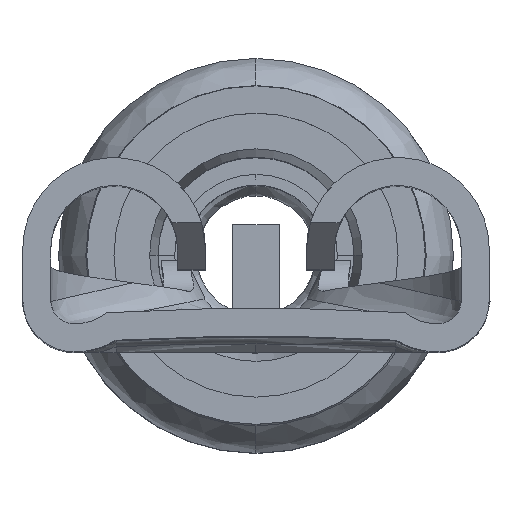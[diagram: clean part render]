
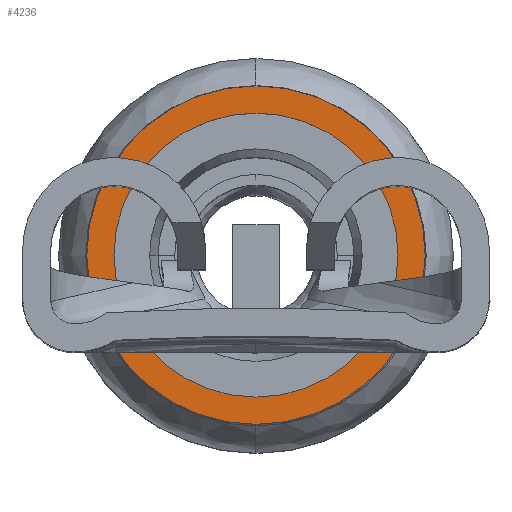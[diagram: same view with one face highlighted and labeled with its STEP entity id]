
A CAD part, top view. The second image highlights one B-rep face of the part: STEP entity #4236.
In plain terms, the highlighted planar face has unit normal (0, 0, 1).
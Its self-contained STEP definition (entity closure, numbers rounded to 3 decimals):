
#928 = ORIENTED_EDGE ( 'NONE', *, *, #3745, .F. ) ;
#929 = ORIENTED_EDGE ( 'NONE', *, *, #3761, .F. ) ;
#930 = ORIENTED_EDGE ( 'NONE', *, *, #3742, .F. ) ;
#931 = ORIENTED_EDGE ( 'NONE', *, *, #3762, .F. ) ;
#1123 = AXIS2_PLACEMENT_3D ( 'NONE', #6377, #6378, #6379 ) ;
#1199 = CARTESIAN_POINT ( 'NONE',  ( 0., 1.6, -11.049 ) ) ;
#1200 = DIRECTION ( 'NONE',  ( 0., 0., -1. ) ) ;
#1201 = DIRECTION ( 'NONE',  ( -1., 0., 0. ) ) ;
#1207 = CARTESIAN_POINT ( 'NONE',  ( 0., 1.6, -11.049 ) ) ;
#1208 = DIRECTION ( 'NONE',  ( 0., 0., 1. ) ) ;
#1209 = DIRECTION ( 'NONE',  ( -1., 0., 0. ) ) ;
#1249 = CARTESIAN_POINT ( 'NONE',  ( 0., 1.6, -11.049 ) ) ;
#1250 = DIRECTION ( 'NONE',  ( 0., 0., 1. ) ) ;
#1251 = DIRECTION ( 'NONE',  ( -1., 0., 0. ) ) ;
#1254 = CARTESIAN_POINT ( 'NONE',  ( 0., 1.6, -11.049 ) ) ;
#1255 = DIRECTION ( 'NONE',  ( 0., 0., -1. ) ) ;
#1256 = DIRECTION ( 'NONE',  ( -1., 0., 0. ) ) ;
#1558 = VERTEX_POINT ( 'NONE', #4343 ) ;
#1582 = VERTEX_POINT ( 'NONE', #4367 ) ;
#1590 = VERTEX_POINT ( 'NONE', #4375 ) ;
#1593 = VERTEX_POINT ( 'NONE', #4378 ) ;
#1810 = CIRCLE ( 'NONE', #7493, 2.765 ) ;
#1815 = CIRCLE ( 'NONE', #7492, 2.321 ) ;
#1841 = CIRCLE ( 'NONE', #7481, 2.321 ) ;
#1842 = CIRCLE ( 'NONE', #7480, 2.765 ) ;
#3742 = EDGE_CURVE ( 'NONE', #1558, #1590, #1810, .T. ) ;
#3745 = EDGE_CURVE ( 'NONE', #1593, #1582, #1815, .T. ) ;
#3761 = EDGE_CURVE ( 'NONE', #1582, #1593, #1841, .T. ) ;
#3762 = EDGE_CURVE ( 'NONE', #1590, #1558, #1842, .T. ) ;
#4236 = ADVANCED_FACE ( 'NONE', ( #5807, #5811 ), #6370, .F. ) ;
#4343 = CARTESIAN_POINT ( 'NONE',  ( -2.765, 1.6, -11.049 ) ) ;
#4367 = CARTESIAN_POINT ( 'NONE',  ( 2.321, 1.6, -11.049 ) ) ;
#4375 = CARTESIAN_POINT ( 'NONE',  ( 2.765, 1.6, -11.049 ) ) ;
#4378 = CARTESIAN_POINT ( 'NONE',  ( -2.321, 1.6, -11.049 ) ) ;
#4855 = EDGE_LOOP ( 'NONE', ( #928, #929 ) ) ;
#4857 = EDGE_LOOP ( 'NONE', ( #930, #931 ) ) ;
#5807 = FACE_BOUND ( 'NONE', #4855, .T. ) ;
#5811 = FACE_OUTER_BOUND ( 'NONE', #4857, .T. ) ;
#6370 = PLANE ( 'NONE',  #1123 ) ;
#6377 = CARTESIAN_POINT ( 'NONE',  ( 0., 1.6, -11.049 ) ) ;
#6378 = DIRECTION ( 'NONE',  ( 0., 0., -1. ) ) ;
#6379 = DIRECTION ( 'NONE',  ( -1., 0., 0. ) ) ;
#7480 = AXIS2_PLACEMENT_3D ( 'NONE', #1254, #1255, #1256 ) ;
#7481 = AXIS2_PLACEMENT_3D ( 'NONE', #1249, #1250, #1251 ) ;
#7492 = AXIS2_PLACEMENT_3D ( 'NONE', #1207, #1208, #1209 ) ;
#7493 = AXIS2_PLACEMENT_3D ( 'NONE', #1199, #1200, #1201 ) ;
